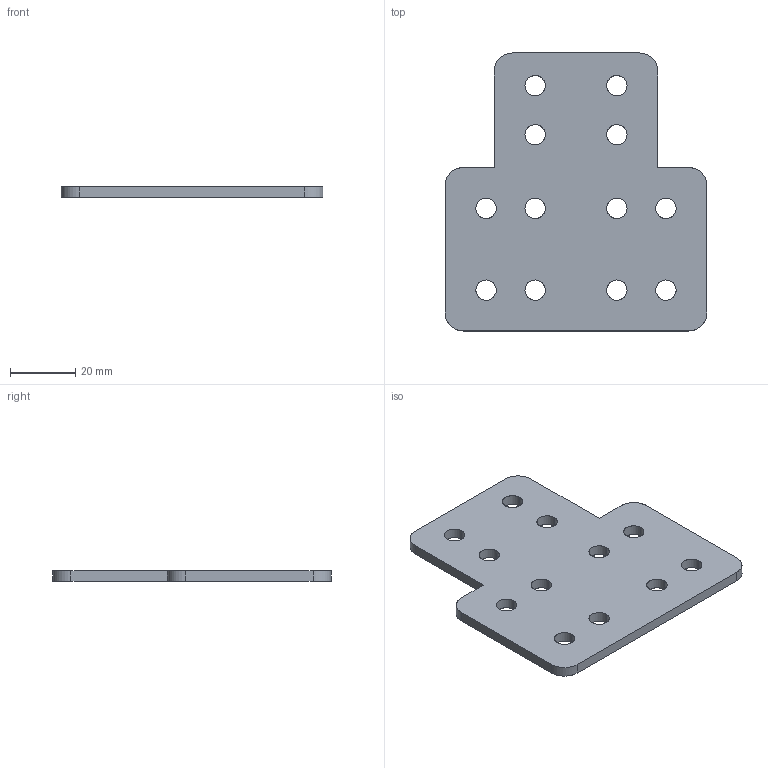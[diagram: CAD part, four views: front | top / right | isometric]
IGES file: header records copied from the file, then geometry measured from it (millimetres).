
Start section: SolidWorks IGES file using analytic representation for surfaces
Global section: file name: C:\Documents and Settings\CAD53\デスクトップ\IGES\N01913-302-0.IGS; native system: SolidWorks 2005 by SolidWorks Corporation; preprocessor: SolidWorks 2005 by SolidWorks Corporation; author: CAD53; date: 070530.091956; units: millimetre
Bounding box: 80 x 85 x 3.2 mm (x, y, z)
Surface area: 12456.1 mm2 (no closed solid volume)
Topology: 0 solids, 0 shells, 40 faces, 1032 edges, 1032 vertices
Faces by surface type: revolution 30, bspline 10
